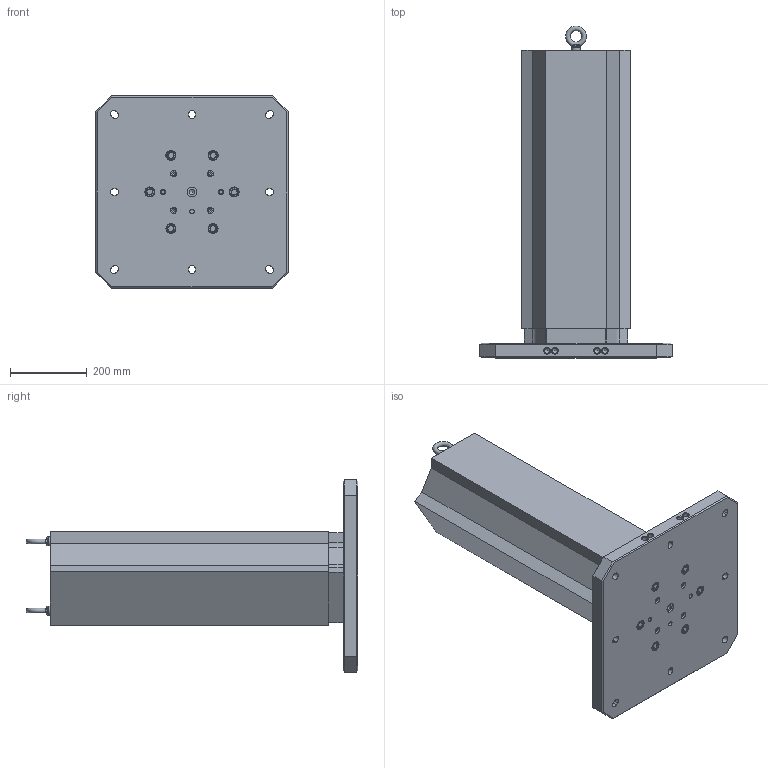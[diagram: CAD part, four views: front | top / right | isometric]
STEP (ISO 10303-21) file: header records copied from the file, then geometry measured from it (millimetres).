
FILE_DESCRIPTION (( 'STEP AP214' ), '1' );
FILE_NAME ('MTA-5003U-800.STEP', '2025-08-19T22:19:10', ( '' ), ( '' ), 'SwSTEP 2.0', 'SolidWorks 2024', '' );
FILE_SCHEMA (( 'AUTOMOTIVE_DESIGN' ));
Length unit declared in the file: millimetre
Products named in the file (7): HW.76172; RL96-14TC; HW.76452_dev_91290A835; RL96-5003BUA; MTA-5003U-800; M12X24MM.EB (McM 3040T15)_3040T15; MT-3762A_MACHINABLE TOWER
Assembly tree (15 placements, depth 2):
  MTA-5003U-800
    RL96-5003BUA
    MT-3762A_MACHINABLE TOWER
    RL96-14TC
    HW.76172  x4
    M12X24MM.EB (McM 3040T15)_3040T15  x2
    HW.76452_dev_91290A835  x6
Bounding box: 500 x 862.88 x 500 mm (x, y, z)
Volume: 33277020.5 mm3; surface area: 1803762.4 mm2
Topology: 15 solids, 15 shells, 772 faces, 1843 edges, 1147 vertices
Faces by surface type: cylinder 303, plane 286, cone 153, bspline 24, torus 6
Full cylindrical faces by diameter (mm): 5 x4, 6 x4, 6.6 x4, 8.5 x4, 10 x4, 10.025 x4, 10.2 x4, 11 x4, 12 x3, 14 x12, 16 x132, 16.02 x4, 17.5 x12, 23 x2, 24 x6, 25.025 x1, 26 x6, 139.7 x1
Entity records: 16218 total; most frequent: CARTESIAN_POINT 5537, DIRECTION 2066, ORIENTED_EDGE 1738, EDGE_CURVE 869, AXIS2_PLACEMENT_3D 798, EDGE_LOOP 643, VERTEX_POINT 618, FACE_OUTER_BOUND 497
